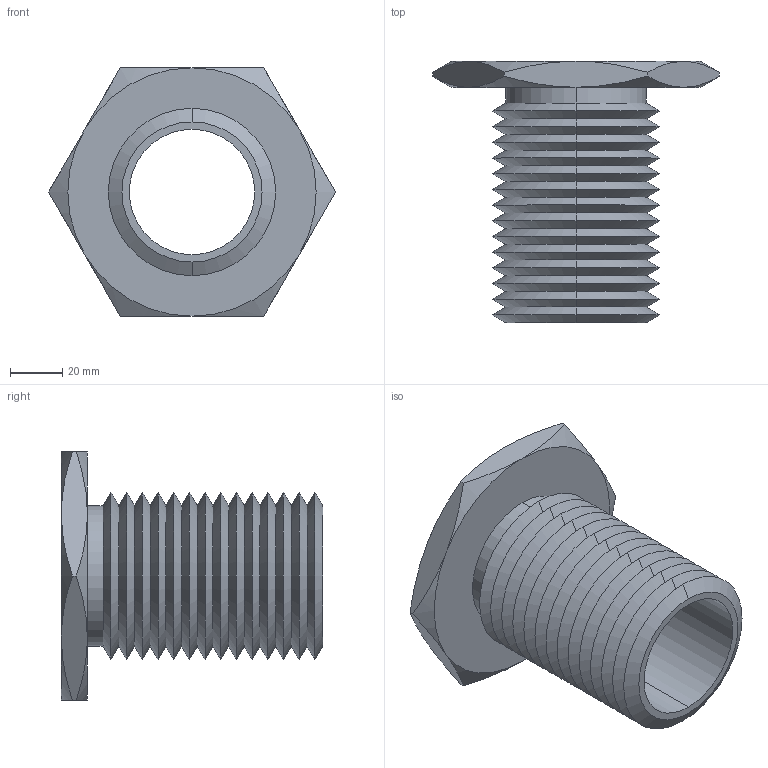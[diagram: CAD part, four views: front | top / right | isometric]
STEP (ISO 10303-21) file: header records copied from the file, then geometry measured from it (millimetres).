
FILE_DESCRIPTION (( 'STEP AP203' ), '1' );
FILE_NAME ('63302.W0064_M48x4.step', '2013-12-08T11:27:30', ( 'User' ), ( '' ), 'SwSTEP 2.0', 'SolidWorks 2009', '' );
FILE_SCHEMA (( 'CONFIG_CONTROL_DESIGN' ));
Length unit declared in the file: millimetre
Products named in the file (1): 63302.W0064_M48x4
Bounding box: 109.7 x 100 x 95 mm (x, y, z)
Volume: 136333.7 mm3; surface area: 61364.4 mm2
Topology: 1 solids, 1 shells, 83 faces, 170 edges, 90 vertices
Faces by surface type: cone 70, plane 9, cylinder 4
Entity records: 2371 total; most frequent: CARTESIAN_POINT 560, DIRECTION 392, ORIENTED_EDGE 340, EDGE_CURVE 170, AXIS2_PLACEMENT_3D 162, VERTEX_POINT 90, EDGE_LOOP 86, ADVANCED_FACE 83
